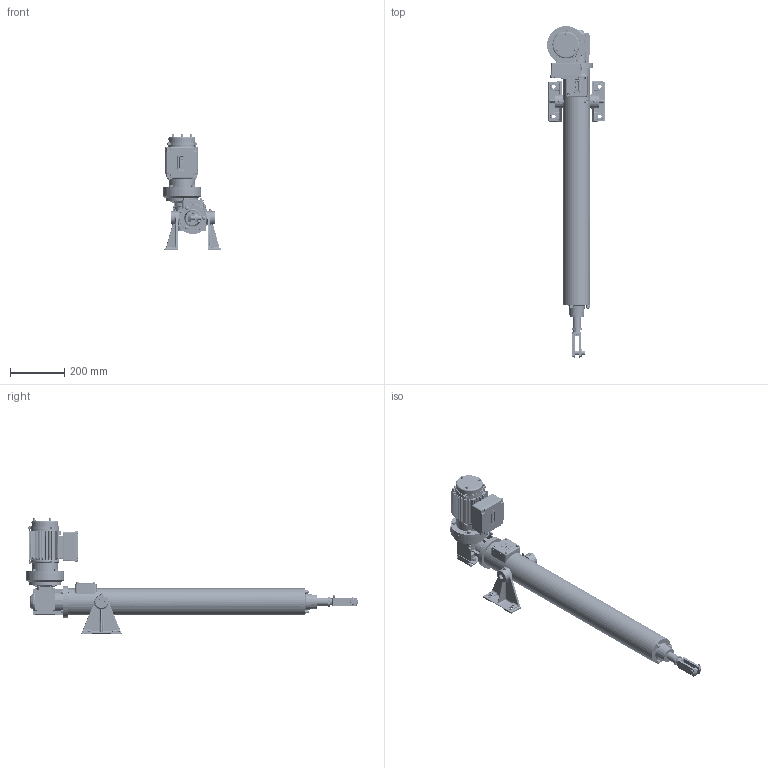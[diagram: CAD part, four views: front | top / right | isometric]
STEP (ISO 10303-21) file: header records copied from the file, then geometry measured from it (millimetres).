
FILE_DESCRIPTION( ( '153-599-4' ), '1' );
FILE_NAME( 'C:/daten/bearbeitung katalogbilder/RBs rendern/austausch pomplun/mit identnr/T1T4-0600-160-228-4.stp', 'Unknown', ( 'Christoph Hahmann' ), ( 'RACO-ELEKTRO-MASCHINEN GmbH' ), 'PSStep 17.0.49', 'Solid Edge ST 7', ' ' );
FILE_SCHEMA( ( 'AUTOMOTIVE_DESIGN { 1 0 10303 214 1 1 1 1 }' ) );
Length unit declared in the file: millimetre
Products named in the file (11): Assem1; 03.01-04 kpl; 02.14-04-0600; 02.01-04 kpl; 04.40-120-100-015-2 kpl; 01.15-04-0600; 01.01-04 kpl Gabelkopf; BGR 4; 04.01-04-100-107-8; 03.65-04-105-052-4-2 Füße; Schnecke EZ4
Assembly tree (10 placements, depth 2):
  Assem1
    03.01-04 kpl
    02.14-04-0600
    02.01-04 kpl
    04.40-120-100-015-2 kpl
    01.15-04-0600
    01.01-04 kpl Gabelkopf
    BGR 4
    04.01-04-100-107-8
    03.65-04-105-052-4-2 Füße
    Schnecke EZ4
Bounding box: 214.5 x 1227.98 x 431.5 mm (x, y, z)
Surface area: 1213507.6 mm2 (no closed solid volume)
Topology: 0 solids, 6165 shells, 6165 faces, 32187 edges, 31406 vertices
Faces by surface type: plane 3278, cylinder 1564, bspline 409, cone 351, torus 265, extrusion 161, sphere 137
Full cylindrical faces by diameter (mm): 1.6 x2, 2 x1, 2.459 x12, 3 x8, 3.141 x6, 3.242 x22, 3.5 x1, 4 x15, 4.02 x5, 4.134 x18, 4.72 x4, 4.77 x4, 4.8 x9, 4.917 x6, 5 x20, 5.1 x1, 5.3 x5, 5.4 x5, 5.5 x8, 5.7 x7, 6 x8, 6.39 x8, 6.4 x14, 6.47 x4, 6.647 x3, 6.917 x2, 7 x10, 7.33 x1, 7.5 x3, 8 x12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
Entity records: 444981 total; most frequent: CARTESIAN_POINT 161388, DIRECTION 50129, VERTEX_POINT 31106, ORIENTED_EDGE 31060, EDGE_CURVE 31060, AXIS2_PLACEMENT_3D 16859, VECTOR 16411, LINE 16250
